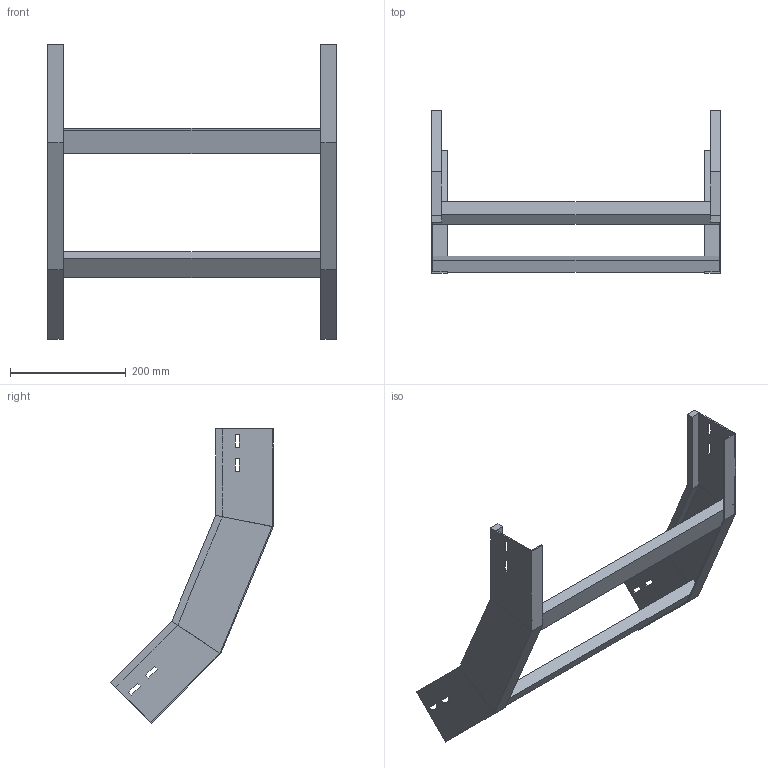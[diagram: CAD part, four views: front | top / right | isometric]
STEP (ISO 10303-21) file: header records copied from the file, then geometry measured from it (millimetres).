
FILE_DESCRIPTION (( 'STEP AP214' ), '1' );
FILE_NAME ('A2X31B5D500XX.step', '2025-03-20T10:04:35', ( '' ), ( '' ), 'SwSTEP 2.0', 'SolidWorks 2023', '' );
FILE_SCHEMA (( 'AUTOMOTIVE_DESIGN' ));
Length unit declared in the file: millimetre
Products named in the file (3): LONGH.SALITA_45°_H100_R500; TRAVERSINO_500; A2X31B5D500XX
Assembly tree (4 placements, depth 2):
  A2X31B5D500XX
    LONGH.SALITA_45°_H100_R500  x2
    TRAVERSINO_500  x2
Bounding box: 500 x 281.75 x 509.5 mm (x, y, z)
Volume: 1266676.9 mm3; surface area: 432622.2 mm2
Topology: 4 solids, 4 shells, 96 faces, 232 edges, 144 vertices
Faces by surface type: plane 96
Entity records: 1472 total; most frequent: CARTESIAN_POINT 243, ORIENTED_EDGE 232, DIRECTION 226, VECTOR 116, EDGE_CURVE 116, LINE 116, VERTEX_POINT 72, EDGE_LOOP 56
